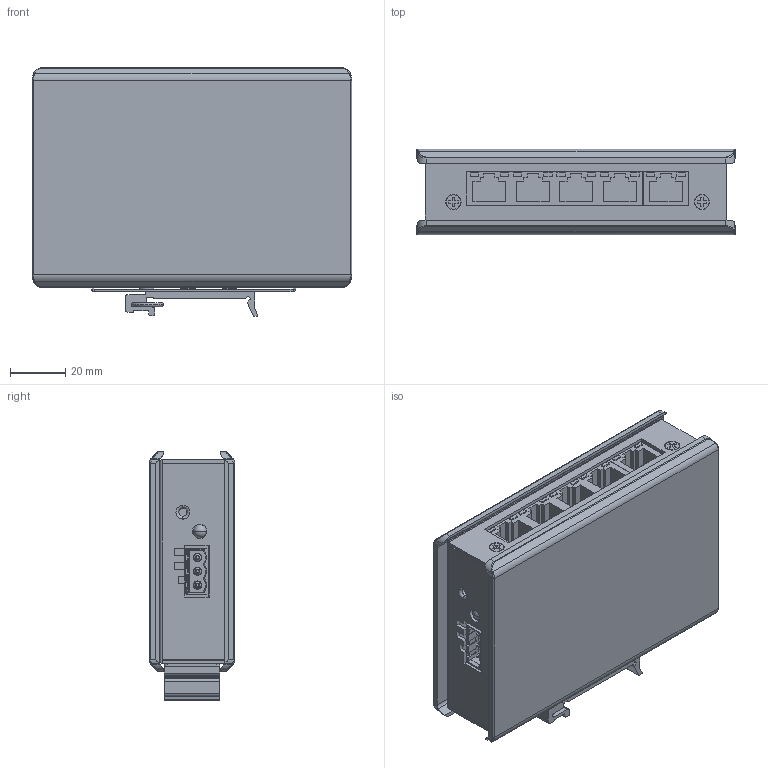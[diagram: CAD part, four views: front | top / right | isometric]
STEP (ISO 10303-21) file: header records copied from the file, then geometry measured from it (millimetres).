
FILE_DESCRIPTION((''),'2;1');
FILE_NAME('SWITCH_2005TX_ASM','2022-08-01T',('Jun.Chen'),(''),'PRO/ENGINEER BY PARAMETRIC TECHNOLOGY CORPORATION, 2015240','PRO/ENGINEER BY PARAMETRIC TECHNOLOGY CORPORATION, 2015240','');
FILE_SCHEMA(('CONFIG_CONTROL_DESIGN'));
Length unit declared in the file: millimetre
Products named in the file (24): INS-8005A_NEW-BOTTOM_CASE_2; STANDOFF-BSO-M3_5-5L_1; SCREW-I-HEAD-M3L3MM_2; INS-8005A_NEW-BOTTOM_CASE_ASSY__ASM; INS-8005A_UP-COVER-120_27; INS-8005A_UP-COVER-120_ASM_6_ASM; INS-8005A-NEW_TOP_CASE_4; INS-8005A-NEW-TOP_CASE_ASM_13_ASM; BRACKET_1; SCREW-PAD_1; INS-8005A-CASE_ASSY-120_ASM_27_ASM; 8405-PCB-DXF-0319_1; 2110-104011_1X4-RJ45__1; 2110-101013-RJ45_1; KTL-66G-1_1; DINKLE_5EHDRC-03P; 8405-PCB-ASM_ASM_1_ASM; SCREW-M3L6MM_4100-300035_1; INS-8005A-SYSYEM_ASSY-120_ASM_2_ASM; 4005-800504-1; 4005-800504-2; 1SCREW-M4-6L--4100-400018; 4005-800504_ASM; SWITCH_2005TX_ASM
Assembly tree (38 placements, depth 6):
  SWITCH_2005TX_ASM
    INS-8005A-SYSYEM_ASSY-120_ASM_2_ASM
      INS-8005A-CASE_ASSY-120_ASM_27_ASM
        INS-8005A_NEW-BOTTOM_CASE_ASSY__ASM
          INS-8005A_NEW-BOTTOM_CASE_2
          STANDOFF-BSO-M3_5-5L_1  x3
          SCREW-I-HEAD-M3L3MM_2  x4
        INS-8005A-NEW-TOP_CASE_ASM_13_ASM
          INS-8005A_UP-COVER-120_ASM_6_ASM
            INS-8005A_UP-COVER-120_27
          INS-8005A-NEW_TOP_CASE_4
          SCREW-I-HEAD-M3L3MM_2  x4
        INS-8005A_UP-COVER-120_27
        BRACKET_1
        SCREW-PAD_1  x2
      8405-PCB-ASM_ASM_1_ASM
        8405-PCB-DXF-0319_1
        2110-104011_1X4-RJ45__1
        2110-101013-RJ45_1
        KTL-66G-1_1
        DINKLE_5EHDRC-03P
      SCREW-M3L6MM_4100-300035_1  x4
    4005-800504_ASM
      4005-800504-1
      4005-800504-2
      1SCREW-M4-6L--4100-400018  x2
Bounding box: 115.81 x 31 x 90.06 mm (x, y, z)
Volume: 102026.5 mm3; surface area: 126911.5 mm2
Topology: 31 solids, 31 shells, 1488 faces, 3752 edges, 2427 vertices
Faces by surface type: plane 895, cylinder 466, cone 55, bspline 40, torus 30, sphere 2
Entity records: 30897 total; most frequent: CARTESIAN_POINT 6136, DIRECTION 5149, ORIENTED_EDGE 4968, EDGE_CURVE 2484, VECTOR 1721, LINE 1721, AXIS2_PLACEMENT_3D 1714, VERTEX_POINT 1606
